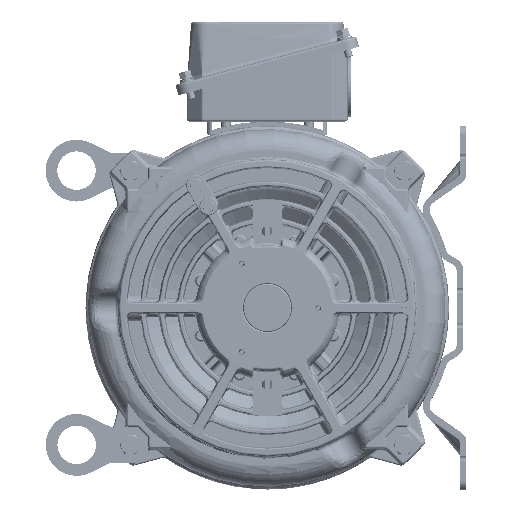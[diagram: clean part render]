
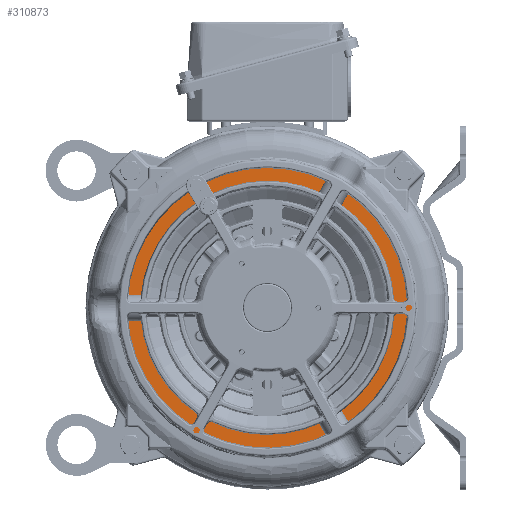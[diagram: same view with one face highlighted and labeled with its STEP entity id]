
A CAD part, left-side view. The second image highlights one B-rep face of the part: STEP entity #310873.
In plain terms, the highlighted planar face has unit normal (-1, 0, 0).
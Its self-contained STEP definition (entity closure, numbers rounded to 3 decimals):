
#29620 = CIRCLE ( 'NONE', #169742, 104.205 ) ;
#34215 = FACE_BOUND ( 'NONE', #259059, .T. ) ;
#42915 = DIRECTION ( 'NONE',  ( 0., 0., 1. ) ) ;
#48186 = EDGE_LOOP ( 'NONE', ( #327696, #212562 ) ) ;
#50100 = EDGE_CURVE ( 'NONE', #292357, #261699, #216832, .T. ) ;
#51980 = VERTEX_POINT ( 'NONE', #249722 ) ;
#65748 = ORIENTED_EDGE ( 'NONE', *, *, #89487, .F. ) ;
#78489 = CARTESIAN_POINT ( 'NONE',  ( -5.1, 125.5, -104.205 ) ) ;
#85272 = ORIENTED_EDGE ( 'NONE', *, *, #50100, .F. ) ;
#89487 = EDGE_CURVE ( 'NONE', #261699, #292357, #358661, .T. ) ;
#98474 = EDGE_CURVE ( 'NONE', #114367, #51980, #29620, .T. ) ;
#109603 = DIRECTION ( 'NONE',  ( 0., 0., 1. ) ) ;
#114367 = VERTEX_POINT ( 'NONE', #78489 ) ;
#118248 = DIRECTION ( 'NONE',  ( 1., 0., 0. ) ) ;
#119577 = AXIS2_PLACEMENT_3D ( 'NONE', #317426, #118248, #258987 ) ;
#155343 = CARTESIAN_POINT ( 'NONE',  ( -5.1, 125.5, -81.576 ) ) ;
#166230 = DIRECTION ( 'NONE',  ( -1., 0., 0. ) ) ;
#169742 = AXIS2_PLACEMENT_3D ( 'NONE', #310919, #223244, #256059 ) ;
#205616 = DIRECTION ( 'NONE',  ( -1., 0., 0. ) ) ;
#212562 = ORIENTED_EDGE ( 'NONE', *, *, #98474, .T. ) ;
#214026 = EDGE_CURVE ( 'NONE', #51980, #114367, #288177, .T. ) ;
#216832 = CIRCLE ( 'NONE', #339426, 81.576 ) ;
#223244 = DIRECTION ( 'NONE',  ( -1., 0., 0. ) ) ;
#231556 = FACE_OUTER_BOUND ( 'NONE', #48186, .T. ) ;
#234274 = DIRECTION ( 'NONE',  ( 0., 0., 1. ) ) ;
#249722 = CARTESIAN_POINT ( 'NONE',  ( -5.1, 125.5, 104.205 ) ) ;
#256059 = DIRECTION ( 'NONE',  ( 0., 0., 1. ) ) ;
#258987 = DIRECTION ( 'NONE',  ( 0., 0., -1. ) ) ;
#259059 = EDGE_LOOP ( 'NONE', ( #65748, #85272 ) ) ;
#260778 = PLANE ( 'NONE',  #119577 ) ;
#261699 = VERTEX_POINT ( 'NONE', #310153 ) ;
#283143 = CARTESIAN_POINT ( 'NONE',  ( -5.1, 125.5, 0. ) ) ;
#283734 = DIRECTION ( 'NONE',  ( -1., 0., 0. ) ) ;
#288177 = CIRCLE ( 'NONE', #317373, 104.205 ) ;
#290940 = CARTESIAN_POINT ( 'NONE',  ( -5.1, 125.5, 0. ) ) ;
#292357 = VERTEX_POINT ( 'NONE', #155343 ) ;
#310153 = CARTESIAN_POINT ( 'NONE',  ( -5.1, 125.5, 81.576 ) ) ;
#310873 = ADVANCED_FACE ( 'NONE', ( #34215, #231556 ), #260778, .F. ) ;
#310919 = CARTESIAN_POINT ( 'NONE',  ( -5.1, 125.5, 0. ) ) ;
#317373 = AXIS2_PLACEMENT_3D ( 'NONE', #290940, #283734, #234274 ) ;
#317426 = CARTESIAN_POINT ( 'NONE',  ( -5.1, 229.705, 0. ) ) ;
#324492 = AXIS2_PLACEMENT_3D ( 'NONE', #346318, #205616, #42915 ) ;
#327696 = ORIENTED_EDGE ( 'NONE', *, *, #214026, .T. ) ;
#339426 = AXIS2_PLACEMENT_3D ( 'NONE', #283143, #166230, #109603 ) ;
#346318 = CARTESIAN_POINT ( 'NONE',  ( -5.1, 125.5, 0. ) ) ;
#358661 = CIRCLE ( 'NONE', #324492, 81.576 ) ;
